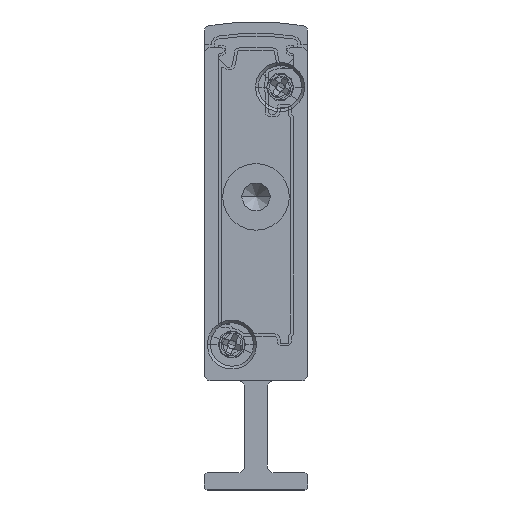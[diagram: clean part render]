
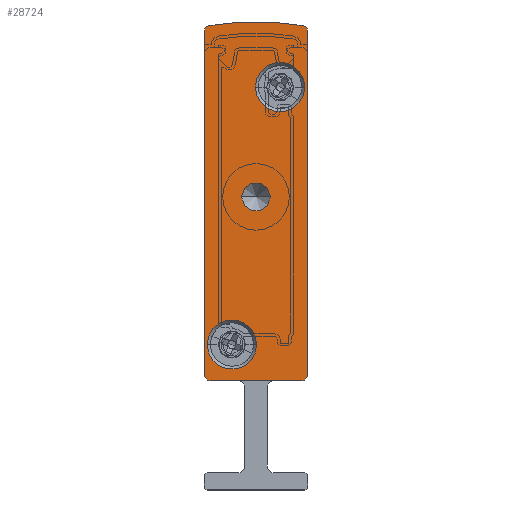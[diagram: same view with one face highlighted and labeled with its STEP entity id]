
A CAD part, front view. The second image highlights one B-rep face of the part: STEP entity #28724.
In plain terms, the highlighted planar face has unit normal (0, -1, 0).
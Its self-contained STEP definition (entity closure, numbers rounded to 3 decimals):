
#468 = CIRCLE ( 'NONE', #20365, 1.25 ) ;
#746 = EDGE_CURVE ( 'NONE', #14808, #14980, #19350, .T. ) ;
#1009 = ORIENTED_EDGE ( 'NONE', *, *, #746, .F. ) ;
#1147 = CARTESIAN_POINT ( 'NONE',  ( 0.5, -2.5, 39.902 ) ) ;
#1228 = AXIS2_PLACEMENT_3D ( 'NONE', #32165, #24573, #16872 ) ;
#1357 = CARTESIAN_POINT ( 'NONE',  ( 9., -2.5, 39.902 ) ) ;
#1681 = CARTESIAN_POINT ( 'NONE',  ( 5.75, -2.5, 25.5 ) ) ;
#1838 = VERTEX_POINT ( 'NONE', #19654 ) ;
#1850 = VECTOR ( 'NONE', #29642, 1000. ) ;
#1854 = DIRECTION ( 'NONE',  ( 1., 0., 0. ) ) ;
#1940 = ORIENTED_EDGE ( 'NONE', *, *, #10272, .F. ) ;
#2296 = ORIENTED_EDGE ( 'NONE', *, *, #17058, .T. ) ;
#2359 = AXIS2_PLACEMENT_3D ( 'NONE', #32381, #9549, #11784 ) ;
#2869 = CARTESIAN_POINT ( 'NONE',  ( 8.5, -2.5, 39.902 ) ) ;
#2881 = ORIENTED_EDGE ( 'NONE', *, *, #28755, .F. ) ;
#2989 = CARTESIAN_POINT ( 'NONE',  ( 4.5, -2.5, 25.5 ) ) ;
#3277 = AXIS2_PLACEMENT_3D ( 'NONE', #27430, #32308, #1854 ) ;
#3361 = VERTEX_POINT ( 'NONE', #28466 ) ;
#3449 = VERTEX_POINT ( 'NONE', #1681 ) ;
#3489 = PLANE ( 'NONE',  #10659 ) ;
#3708 = DIRECTION ( 'NONE',  ( 0., 1., 0. ) ) ;
#3935 = DIRECTION ( 'NONE',  ( -1., 0., 0. ) ) ;
#4063 = CARTESIAN_POINT ( 'NONE',  ( 9., -2.5, 10. ) ) ;
#4169 = ORIENTED_EDGE ( 'NONE', *, *, #27087, .F. ) ;
#4322 = VERTEX_POINT ( 'NONE', #24469 ) ;
#4780 = EDGE_CURVE ( 'NONE', #4322, #1838, #23759, .T. ) ;
#5067 = ORIENTED_EDGE ( 'NONE', *, *, #16373, .F. ) ;
#5137 = ORIENTED_EDGE ( 'NONE', *, *, #19964, .F. ) ;
#5262 = DIRECTION ( 'NONE',  ( 0., 1., 0. ) ) ;
#5575 = DIRECTION ( 'NONE',  ( -1., 0., 0. ) ) ;
#5730 = VERTEX_POINT ( 'NONE', #23421 ) ;
#5744 = VERTEX_POINT ( 'NONE', #21247 ) ;
#5826 = DIRECTION ( 'NONE',  ( 1., 0., 0. ) ) ;
#7424 = LINE ( 'NONE', #1357, #1850 ) ;
#7710 = CARTESIAN_POINT ( 'NONE',  ( 8.5, -2.5, 10. ) ) ;
#8048 = EDGE_CURVE ( 'NONE', #32796, #3449, #468, .T. ) ;
#8365 = DIRECTION ( 'NONE',  ( 1., 0., 0. ) ) ;
#8906 = AXIS2_PLACEMENT_3D ( 'NONE', #33095, #22768, #20693 ) ;
#9009 = AXIS2_PLACEMENT_3D ( 'NONE', #16168, #18748, #5826 ) ;
#9163 = DIRECTION ( 'NONE',  ( 0., 1., 0. ) ) ;
#9362 = ORIENTED_EDGE ( 'NONE', *, *, #31994, .F. ) ;
#9478 = CIRCLE ( 'NONE', #8906, 23.658 ) ;
#9549 = DIRECTION ( 'NONE',  ( 0., 1., 0. ) ) ;
#9910 = AXIS2_PLACEMENT_3D ( 'NONE', #7710, #5262, #10314 ) ;
#10272 = EDGE_CURVE ( 'NONE', #5744, #33364, #9478, .T. ) ;
#10314 = DIRECTION ( 'NONE',  ( -1., 0., 0. ) ) ;
#10645 = VERTEX_POINT ( 'NONE', #4063 ) ;
#10659 = AXIS2_PLACEMENT_3D ( 'NONE', #1147, #3708, #3935 ) ;
#11630 = VERTEX_POINT ( 'NONE', #32485 ) ;
#11783 = CARTESIAN_POINT ( 'NONE',  ( 0.5, -2.5, 9.5 ) ) ;
#11784 = DIRECTION ( 'NONE',  ( -1., 0., 0. ) ) ;
#12156 = DIRECTION ( 'NONE',  ( -1., 0., 0. ) ) ;
#12260 = FACE_OUTER_BOUND ( 'NONE', #15966, .T. ) ;
#12475 = CIRCLE ( 'NONE', #21891, 2.15 ) ;
#12533 = CIRCLE ( 'NONE', #3277, 2.15 ) ;
#13001 = CARTESIAN_POINT ( 'NONE',  ( 0.5, -2.5, 10. ) ) ;
#13220 = DIRECTION ( 'NONE',  ( 0., 1., 0. ) ) ;
#13248 = CARTESIAN_POINT ( 'NONE',  ( 8.75, -2.5, 35.05 ) ) ;
#13497 = CIRCLE ( 'NONE', #2359, 0.5 ) ;
#13606 = CIRCLE ( 'NONE', #33433, 0.5 ) ;
#14158 = CIRCLE ( 'NONE', #9910, 0.5 ) ;
#14808 = VERTEX_POINT ( 'NONE', #18095 ) ;
#14980 = VERTEX_POINT ( 'NONE', #13248 ) ;
#15624 = DIRECTION ( 'NONE',  ( -1., 0., 0. ) ) ;
#15966 = EDGE_LOOP ( 'NONE', ( #17851, #5137, #5067, #9362, #28871, #2881, #31151, #1940 ) ) ;
#16122 = DIRECTION ( 'NONE',  ( 0., 1., 0. ) ) ;
#16168 = CARTESIAN_POINT ( 'NONE',  ( 2.4, -2.5, 12.65 ) ) ;
#16373 = EDGE_CURVE ( 'NONE', #17587, #27084, #25300, .T. ) ;
#16872 = DIRECTION ( 'NONE',  ( 1., 0., 0. ) ) ;
#17058 = EDGE_CURVE ( 'NONE', #3449, #32796, #21843, .T. ) ;
#17587 = VERTEX_POINT ( 'NONE', #11783 ) ;
#17833 = EDGE_CURVE ( 'NONE', #1838, #4322, #12475, .T. ) ;
#17851 = ORIENTED_EDGE ( 'NONE', *, *, #18919, .F. ) ;
#18095 = CARTESIAN_POINT ( 'NONE',  ( 4.45, -2.5, 35.05 ) ) ;
#18280 = EDGE_CURVE ( 'NONE', #33364, #3361, #13606, .T. ) ;
#18293 = FACE_BOUND ( 'NONE', #26319, .T. ) ;
#18748 = DIRECTION ( 'NONE',  ( 0., -1., 0. ) ) ;
#18919 = EDGE_CURVE ( 'NONE', #5730, #5744, #13497, .T. ) ;
#19350 = CIRCLE ( 'NONE', #1228, 2.15 ) ;
#19654 = CARTESIAN_POINT ( 'NONE',  ( 4.55, -2.5, 12.65 ) ) ;
#19901 = AXIS2_PLACEMENT_3D ( 'NONE', #32420, #9163, #12156 ) ;
#19964 = EDGE_CURVE ( 'NONE', #27084, #5730, #32766, .T. ) ;
#20359 = EDGE_LOOP ( 'NONE', ( #4169, #1009 ) ) ;
#20365 = AXIS2_PLACEMENT_3D ( 'NONE', #2989, #16122, #5575 ) ;
#20403 = EDGE_LOOP ( 'NONE', ( #31149, #20941 ) ) ;
#20693 = DIRECTION ( 'NONE',  ( -1., 0., 0. ) ) ;
#20812 = DIRECTION ( 'NONE',  ( 0., 1., 0. ) ) ;
#20941 = ORIENTED_EDGE ( 'NONE', *, *, #4780, .F. ) ;
#21247 = CARTESIAN_POINT ( 'NONE',  ( 0.408, -2.5, 40.393 ) ) ;
#21348 = CARTESIAN_POINT ( 'NONE',  ( 0.5, -2.5, 9.5 ) ) ;
#21843 = CIRCLE ( 'NONE', #19901, 1.25 ) ;
#21891 = AXIS2_PLACEMENT_3D ( 'NONE', #26299, #23788, #8365 ) ;
#21922 = FACE_BOUND ( 'NONE', #20403, .T. ) ;
#22768 = DIRECTION ( 'NONE',  ( 0., 1., 0. ) ) ;
#22911 = EDGE_CURVE ( 'NONE', #10645, #11630, #14158, .T. ) ;
#23421 = CARTESIAN_POINT ( 'NONE',  ( 0., -2.5, 39.902 ) ) ;
#23759 = CIRCLE ( 'NONE', #9009, 2.15 ) ;
#23763 = DIRECTION ( 'NONE',  ( -1., 0., 0. ) ) ;
#23788 = DIRECTION ( 'NONE',  ( 0., -1., 0. ) ) ;
#24469 = CARTESIAN_POINT ( 'NONE',  ( 0.25, -2.5, 12.65 ) ) ;
#24573 = DIRECTION ( 'NONE',  ( 0., -1., 0. ) ) ;
#25132 = LINE ( 'NONE', #21348, #31221 ) ;
#25214 = FACE_BOUND ( 'NONE', #20359, .T. ) ;
#25300 = CIRCLE ( 'NONE', #31858, 0.5 ) ;
#25439 = DIRECTION ( 'NONE',  ( 0., 0., 1. ) ) ;
#26299 = CARTESIAN_POINT ( 'NONE',  ( 2.4, -2.5, 12.65 ) ) ;
#26319 = EDGE_LOOP ( 'NONE', ( #27114, #2296 ) ) ;
#27084 = VERTEX_POINT ( 'NONE', #29917 ) ;
#27087 = EDGE_CURVE ( 'NONE', #14980, #14808, #12533, .T. ) ;
#27114 = ORIENTED_EDGE ( 'NONE', *, *, #8048, .T. ) ;
#27430 = CARTESIAN_POINT ( 'NONE',  ( 6.6, -2.5, 35.05 ) ) ;
#27697 = CARTESIAN_POINT ( 'NONE',  ( 8.592, -2.5, 40.393 ) ) ;
#28466 = CARTESIAN_POINT ( 'NONE',  ( 9., -2.5, 39.902 ) ) ;
#28724 = ADVANCED_FACE ( 'NONE', ( #25214, #21922, #12260, #18293 ), #3489, .F. ) ;
#28755 = EDGE_CURVE ( 'NONE', #3361, #10645, #7424, .T. ) ;
#28780 = DIRECTION ( 'NONE',  ( -1., 0., 0. ) ) ;
#28871 = ORIENTED_EDGE ( 'NONE', *, *, #22911, .F. ) ;
#29642 = DIRECTION ( 'NONE',  ( 0., 0., -1. ) ) ;
#29917 = CARTESIAN_POINT ( 'NONE',  ( 0., -2.5, 10. ) ) ;
#31146 = VECTOR ( 'NONE', #25439, 1000. ) ;
#31149 = ORIENTED_EDGE ( 'NONE', *, *, #17833, .F. ) ;
#31151 = ORIENTED_EDGE ( 'NONE', *, *, #18280, .F. ) ;
#31221 = VECTOR ( 'NONE', #23763, 1000. ) ;
#31858 = AXIS2_PLACEMENT_3D ( 'NONE', #13001, #13220, #15624 ) ;
#31994 = EDGE_CURVE ( 'NONE', #11630, #17587, #25132, .T. ) ;
#32165 = CARTESIAN_POINT ( 'NONE',  ( 6.6, -2.5, 35.05 ) ) ;
#32308 = DIRECTION ( 'NONE',  ( 0., -1., 0. ) ) ;
#32381 = CARTESIAN_POINT ( 'NONE',  ( 0.5, -2.5, 39.902 ) ) ;
#32420 = CARTESIAN_POINT ( 'NONE',  ( 4.5, -2.5, 25.5 ) ) ;
#32485 = CARTESIAN_POINT ( 'NONE',  ( 8.5, -2.5, 9.5 ) ) ;
#32766 = LINE ( 'NONE', #32922, #31146 ) ;
#32796 = VERTEX_POINT ( 'NONE', #32971 ) ;
#32922 = CARTESIAN_POINT ( 'NONE',  ( 0., -2.5, 39.902 ) ) ;
#32971 = CARTESIAN_POINT ( 'NONE',  ( 3.25, -2.5, 25.5 ) ) ;
#33095 = CARTESIAN_POINT ( 'NONE',  ( 4.5, -2.5, 17.092 ) ) ;
#33364 = VERTEX_POINT ( 'NONE', #27697 ) ;
#33433 = AXIS2_PLACEMENT_3D ( 'NONE', #2869, #20812, #28780 ) ;
